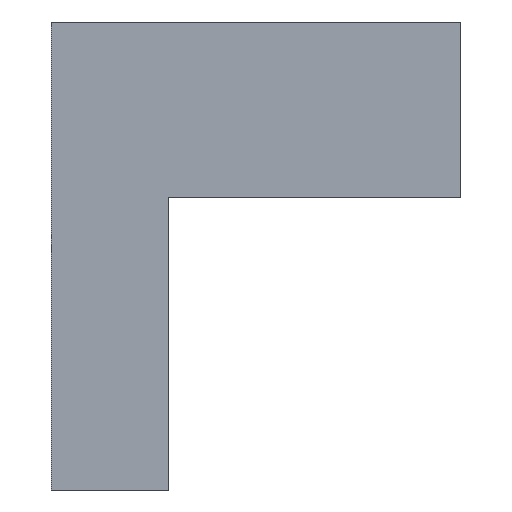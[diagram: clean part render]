
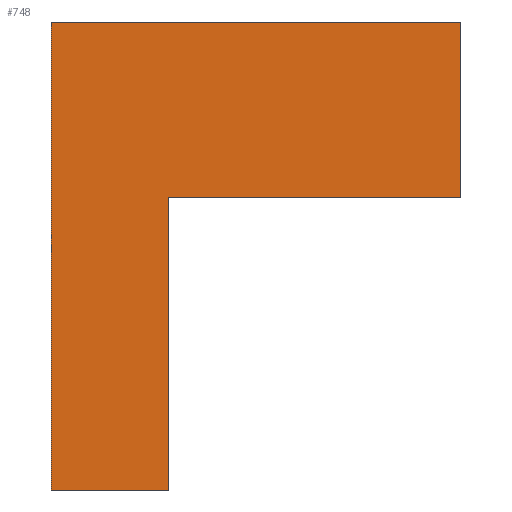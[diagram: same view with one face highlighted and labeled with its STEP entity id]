
A CAD part, left-side view. The second image highlights one B-rep face of the part: STEP entity #748.
In plain terms, the highlighted planar face has unit normal (-1, 0, 0).
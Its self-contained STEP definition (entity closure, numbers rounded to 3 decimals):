
#34 = CARTESIAN_POINT ( 'NONE',  ( -15., 2., 5. ) ) ;
#90 = CARTESIAN_POINT ( 'NONE',  ( -15., 4., 0. ) ) ;
#94 = VERTEX_POINT ( 'NONE', #432 ) ;
#136 = DIRECTION ( 'NONE',  ( 0., 0., -1. ) ) ;
#171 = EDGE_CURVE ( 'NONE', #712, #94, #503, .T. ) ;
#180 = CARTESIAN_POINT ( 'NONE',  ( -15., 4., 8. ) ) ;
#195 = EDGE_CURVE ( 'NONE', #1011, #1007, #838, .T. ) ;
#241 = ORIENTED_EDGE ( 'NONE', *, *, #978, .F. ) ;
#273 = PLANE ( 'NONE',  #736 ) ;
#338 = ORIENTED_EDGE ( 'NONE', *, *, #478, .F. ) ;
#368 = VERTEX_POINT ( 'NONE', #1100 ) ;
#378 = VECTOR ( 'NONE', #634, 1000. ) ;
#386 = ORIENTED_EDGE ( 'NONE', *, *, #171, .T. ) ;
#432 = CARTESIAN_POINT ( 'NONE',  ( -15., 4., 0. ) ) ;
#447 = LINE ( 'NONE', #803, #681 ) ;
#460 = CARTESIAN_POINT ( 'NONE',  ( -15., 4., 8. ) ) ;
#466 = CARTESIAN_POINT ( 'NONE',  ( -15., -3., 5. ) ) ;
#470 = CARTESIAN_POINT ( 'NONE',  ( -15., 2., 5. ) ) ;
#478 = EDGE_CURVE ( 'NONE', #368, #1011, #907, .T. ) ;
#503 = LINE ( 'NONE', #856, #892 ) ;
#540 = DIRECTION ( 'NONE',  ( 0., 1., 0. ) ) ;
#620 = VECTOR ( 'NONE', #976, 1000. ) ;
#627 = DIRECTION ( 'NONE',  ( 1., 0., 0. ) ) ;
#634 = DIRECTION ( 'NONE',  ( 0., 1., 0. ) ) ;
#651 = LINE ( 'NONE', #90, #620 ) ;
#655 = ORIENTED_EDGE ( 'NONE', *, *, #195, .F. ) ;
#678 = VECTOR ( 'NONE', #737, 1000. ) ;
#681 = VECTOR ( 'NONE', #899, 1000. ) ;
#695 = CARTESIAN_POINT ( 'NONE',  ( -15., 4., 8. ) ) ;
#701 = VERTEX_POINT ( 'NONE', #986 ) ;
#710 = ORIENTED_EDGE ( 'NONE', *, *, #1065, .F. ) ;
#712 = VERTEX_POINT ( 'NONE', #460 ) ;
#736 = AXIS2_PLACEMENT_3D ( 'NONE', #180, #627, #540 ) ;
#737 = DIRECTION ( 'NONE',  ( 0., 0., -1. ) ) ;
#748 = ADVANCED_FACE ( 'NONE', ( #1073 ), #273, .F. ) ;
#753 = VECTOR ( 'NONE', #1034, 1000. ) ;
#777 = LINE ( 'NONE', #695, #753 ) ;
#778 = ORIENTED_EDGE ( 'NONE', *, *, #1050, .T. ) ;
#803 = CARTESIAN_POINT ( 'NONE',  ( -15., 2., 5. ) ) ;
#838 = LINE ( 'NONE', #34, #378 ) ;
#848 = CARTESIAN_POINT ( 'NONE',  ( -15., -3., 8. ) ) ;
#856 = CARTESIAN_POINT ( 'NONE',  ( -15., 4., 8. ) ) ;
#892 = VECTOR ( 'NONE', #136, 1000. ) ;
#899 = DIRECTION ( 'NONE',  ( 0., 0., -1. ) ) ;
#907 = LINE ( 'NONE', #848, #678 ) ;
#908 = EDGE_LOOP ( 'NONE', ( #778, #710, #655, #338, #241, #386 ) ) ;
#976 = DIRECTION ( 'NONE',  ( 0., -1., 0. ) ) ;
#978 = EDGE_CURVE ( 'NONE', #712, #368, #777, .T. ) ;
#986 = CARTESIAN_POINT ( 'NONE',  ( -15., 2., 0. ) ) ;
#1007 = VERTEX_POINT ( 'NONE', #470 ) ;
#1011 = VERTEX_POINT ( 'NONE', #466 ) ;
#1034 = DIRECTION ( 'NONE',  ( 0., -1., 0. ) ) ;
#1050 = EDGE_CURVE ( 'NONE', #94, #701, #651, .T. ) ;
#1065 = EDGE_CURVE ( 'NONE', #1007, #701, #447, .T. ) ;
#1073 = FACE_OUTER_BOUND ( 'NONE', #908, .T. ) ;
#1100 = CARTESIAN_POINT ( 'NONE',  ( -15., -3., 8. ) ) ;
